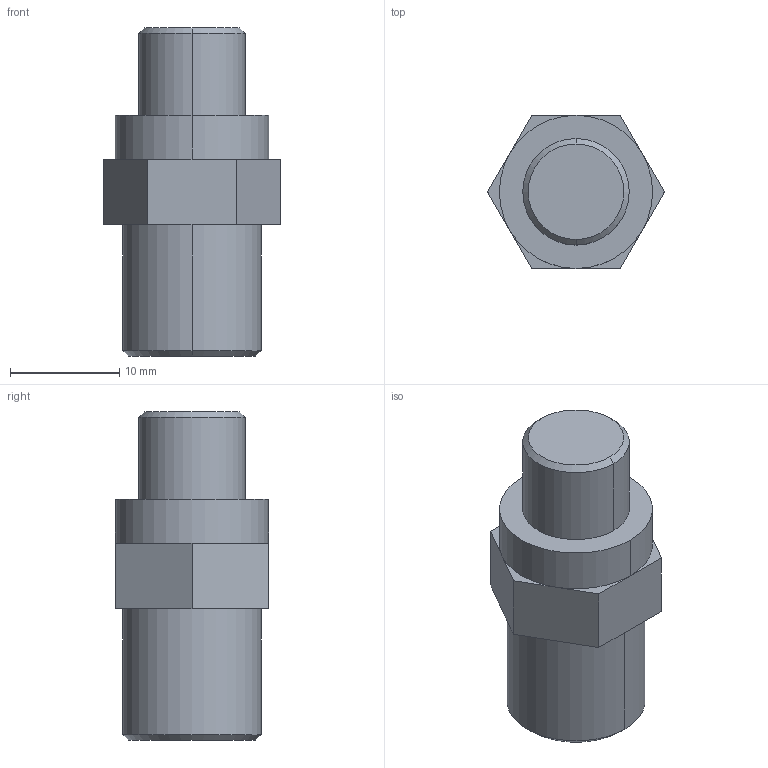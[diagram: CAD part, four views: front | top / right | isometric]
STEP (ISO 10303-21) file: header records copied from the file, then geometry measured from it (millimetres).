
FILE_DESCRIPTION( ( '' ), '1' );
FILE_NAME( 'D:/dummy/3D Data for Accesories/Racord RMF-D1.stp', '2010-07-23T06:22:08', ( '' ), ( '' ), ' ', ' ', ' ' );
FILE_SCHEMA( ( 'CONFIG_CONTROL_DESIGN' ) );
Length unit declared in the file: millimetre
Products named in the file (1): 1
Bounding box: 16.17 x 14 x 30 mm (x, y, z)
Volume: 3728.7 mm3; surface area: 1506.6 mm2
Topology: 1 solids, 1 shells, 26 faces, 54 edges, 32 vertices
Faces by surface type: plane 16, cylinder 6, cone 4
Entity records: 726 total; most frequent: DIRECTION 128, CARTESIAN_POINT 113, ORIENTED_EDGE 108, EDGE_CURVE 54, AXIS2_PLACEMENT_3D 47, LINE 34, VECTOR 34, VERTEX_POINT 32
